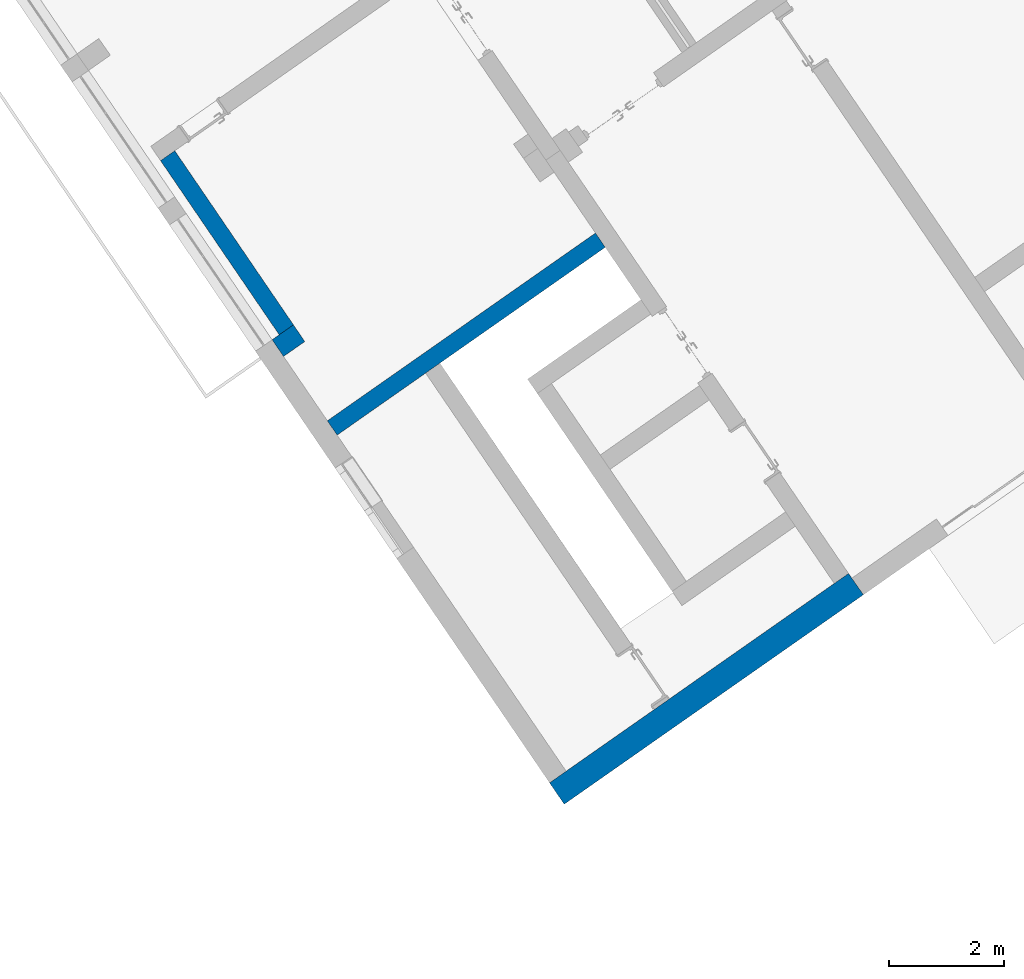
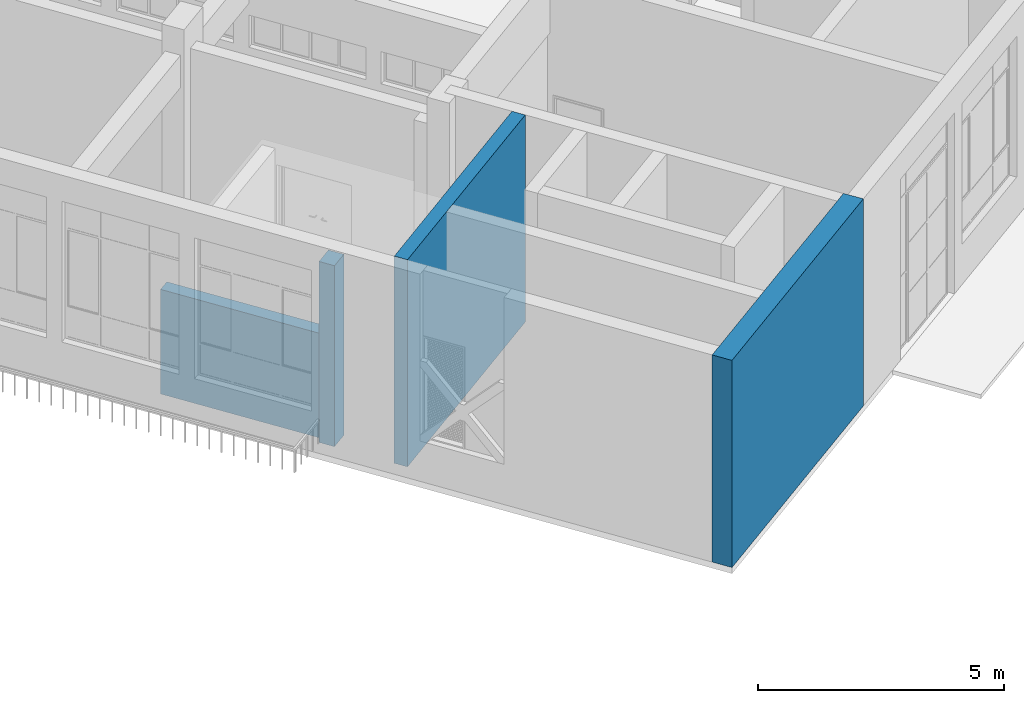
# One storey, part 58 of 157: 4 walls.
"""IFC2X3 building model written with IfcOpenShell, lengths in millimetres."""

from ifc_helpers import new_model, entity, si_unit, converted_unit, derived_unit, direction, frame, origin, place, context, subcontext, project, spatial, polyline, outline, extrude, material, layer, layer_set, layer_usage, type_object, element, save


model = new_model("IFC2X3")

# Units and contexts
model_context = context("Model", 3, precision=0.01, world=origin(), true_north=direction((6.123031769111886e-17, 1.0)))
body_context = subcontext(model_context, "Body", "Model", "MODEL_VIEW")
ifc_project = project(units=[si_unit("LENGTHUNIT", "METRE", prefix="MILLI"), si_unit("AREAUNIT", "SQUARE_METRE"), si_unit("VOLUMEUNIT", "CUBIC_METRE"), converted_unit("PLANEANGLEUNIT", "DEGREE", entity("IfcRatioMeasure", 0.017453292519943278), si_unit("PLANEANGLEUNIT", "RADIAN"), dimensions=[0, 0, 0, 0, 0, 0, 0]), si_unit("MASSUNIT", "GRAM", prefix="KILO"), derived_unit("MASSDENSITYUNIT", [(si_unit("MASSUNIT", "GRAM", prefix="KILO"), 1), (si_unit("LENGTHUNIT", "METRE"), -3)]), derived_unit("MOMENTOFINERTIAUNIT", [(si_unit("LENGTHUNIT", "METRE"), 4)]), si_unit("TIMEUNIT", "SECOND"), si_unit("FREQUENCYUNIT", "HERTZ"), si_unit("THERMODYNAMICTEMPERATUREUNIT", "DEGREE_CELSIUS"), derived_unit("THERMALTRANSMITTANCEUNIT", [(si_unit("MASSUNIT", "GRAM", prefix="KILO"), 1), (si_unit("THERMODYNAMICTEMPERATUREUNIT", "KELVIN"), -1), (si_unit("TIMEUNIT", "SECOND"), -3)]), derived_unit("THERMALCONDUCTANCEUNIT", [(si_unit("MASSUNIT", "GRAM", prefix="KILO"), 1), (si_unit("LENGTHUNIT", "METRE"), 1), (si_unit("THERMODYNAMICTEMPERATUREUNIT", "KELVIN"), -1), (si_unit("TIMEUNIT", "SECOND"), -3)]), derived_unit("VOLUMETRICFLOWRATEUNIT", [(si_unit("LENGTHUNIT", "METRE"), 3), (si_unit("TIMEUNIT", "SECOND"), -1)]), derived_unit("MASSFLOWRATEUNIT", [(si_unit("MASSUNIT", "GRAM", prefix="KILO"), 1), (si_unit("TIMEUNIT", "SECOND"), -1)]), derived_unit("ROTATIONALFREQUENCYUNIT", [(si_unit("TIMEUNIT", "SECOND"), -1)]), si_unit("ELECTRICCURRENTUNIT", "AMPERE"), si_unit("ELECTRICVOLTAGEUNIT", "VOLT"), si_unit("POWERUNIT", "WATT"), converted_unit("FORCEUNIT", "KIP", entity("IfcRatioMeasure", 2.088543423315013e-05), si_unit("FORCEUNIT", "NEWTON"), dimensions=[1, 1, -2, 0, 0, 0, 0]), si_unit("ILLUMINANCEUNIT", "LUX"), si_unit("LUMINOUSFLUXUNIT", "LUMEN"), si_unit("LUMINOUSINTENSITYUNIT", "CANDELA"), derived_unit("USERDEFINED", [(si_unit("MASSUNIT", "GRAM", prefix="KILO"), -1), (si_unit("LENGTHUNIT", "METRE"), -2), (si_unit("TIMEUNIT", "SECOND"), 3), (si_unit("LUMINOUSFLUXUNIT", "LUMEN"), 1)]), derived_unit("USERDEFINED", [(si_unit("MASSUNIT", "GRAM", prefix="KILO"), 1), (si_unit("LENGTHUNIT", "METRE"), 3), (si_unit("TIMEUNIT", "SECOND"), -3), (si_unit("ELECTRICCURRENTUNIT", "AMPERE"), -2)]), derived_unit("USERDEFINED", [(si_unit("LENGTHUNIT", "METRE"), 2), (si_unit("TIMEUNIT", "SECOND"), -2)]), derived_unit("SOUNDPOWERUNIT", [(si_unit("MASSUNIT", "GRAM", prefix="KILO"), 1), (si_unit("LENGTHUNIT", "METRE"), 2), (si_unit("TIMEUNIT", "SECOND"), -3)]), derived_unit("SOUNDPRESSUREUNIT", [(si_unit("MASSUNIT", "GRAM", prefix="KILO"), 1), (si_unit("LENGTHUNIT", "METRE"), -1), (si_unit("TIMEUNIT", "SECOND"), -2)]), derived_unit("LINEARVELOCITYUNIT", [(si_unit("LENGTHUNIT", "METRE"), 1), (si_unit("TIMEUNIT", "SECOND"), -1)]), si_unit("PRESSUREUNIT", "PASCAL"), derived_unit("USERDEFINED", [(si_unit("LENGTHUNIT", "METRE"), -2), (si_unit("MASSUNIT", "GRAM", prefix="KILO"), 1), (si_unit("TIMEUNIT", "SECOND"), -2)]), derived_unit("LINEARFORCEUNIT", [(si_unit("MASSUNIT", "GRAM", prefix="KILO"), 1), (si_unit("LENGTHUNIT", "METRE"), 1), (si_unit("TIMEUNIT", "SECOND"), -2), (si_unit("LENGTHUNIT", "METRE"), -1)]), derived_unit("PLANARFORCEUNIT", [(si_unit("MASSUNIT", "GRAM", prefix="KILO"), 1), (si_unit("LENGTHUNIT", "METRE"), 1), (si_unit("TIMEUNIT", "SECOND"), -2), (si_unit("LENGTHUNIT", "METRE"), -2)]), derived_unit("SPECIFICHEATCAPACITYUNIT", [(si_unit("LENGTHUNIT", "METRE"), 2), (si_unit("TIMEUNIT", "SECOND"), -2), (si_unit("THERMODYNAMICTEMPERATUREUNIT", "KELVIN"), -1)]), derived_unit("VAPORPERMEABILITYUNIT", [(si_unit("TIMEUNIT", "SECOND"), 1), (si_unit("LENGTHUNIT", "METRE"), -1)]), derived_unit("DYNAMICVISCOSITYUNIT", [(si_unit("MASSUNIT", "GRAM", prefix="KILO"), 1), (si_unit("LENGTHUNIT", "METRE"), -1), (si_unit("TIMEUNIT", "SECOND"), -1)]), derived_unit("THERMALEXPANSIONCOEFFICIENTUNIT", [(si_unit("THERMODYNAMICTEMPERATUREUNIT", "KELVIN"), -1)])], contexts=[model_context])

# Site, building, storey
site_placement = place(None, frame((0.0, 0.0, 0.0), z_axis=(0.0, 0.0, 1.0), x_axis=(0.8191520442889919, 0.5735764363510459, 0.0)))
site = spatial("IfcSite", under=ifc_project, at=site_placement, Name="Default", CompositionType="ELEMENT")
building_placement = place(site_placement, origin())
building = spatial("IfcBuilding", under=site, at=building_placement, CompositionType="ELEMENT")
storey_placement = place(building_placement, origin())
storey = spatial("IfcBuildingStorey", under=building, at=storey_placement, Name="1.EG +0.00", CompositionType="ELEMENT", Elevation=-4.331468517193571e-12)

# Walls
ifc_material = material(Name="Analytical Wall Surface_CJC")
ifc_layer_1 = layer(ifc_material, 450.00000000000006)
ifc_layer_set_1 = layer_set([ifc_layer_1], Name="Basic Wall:Wand_Aussen_45")
ifc_layer_usage_1 = layer_usage(ifc_layer_set_1, "AXIS2", "NEGATIVE", 225.00000000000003)
wall_type_1 = type_object("IfcWallType", Name="Basic Wall:Wand_Aussen_45", PredefinedType="STANDARD", material=ifc_layer_set_1)
wall_1_placement = place(storey_placement, frame((-217575.7594548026, 52296.35891435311, 0.0), z_axis=(0.0, 0.0, 1.0), x_axis=(-1.0, 0.0, 0.0)))
element("IfcWallStandardCase", 1, at=wall_1_placement, inside=storey, type_object=wall_type_1, material=ifc_layer_usage_1, Name="Basic Wall:Wand_Aussen_45", ObjectType="Basic Wall:Wand_Aussen_45", context=body_context, shape_type="SweptSolid", body=[
    extrude(outline(polyline([(6326.785583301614, -225.0), (6332.514361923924, 225.0), (0.0, 225.0), (0.0, -125.0), (0.0, -225.0), (1.2715232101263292, -225.0), (301.2958584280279, -225.0), (3807.5911600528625, -225.0), (4107.618827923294, -225.0), (5976.757222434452, -225.0), (6326.785583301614, -225.0)])), origin(), (0.0, 0.0, 1.0), 5150.000000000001),
])
ifc_layer_2 = layer(ifc_material, 300.0)
ifc_layer_set_2 = layer_set([ifc_layer_2], Name="Basic Wall:Wand_Innen_30")
ifc_layer_usage_2 = layer_usage(ifc_layer_set_2, "AXIS2", "NEGATIVE", 150.0)
wall_type_2 = type_object("IfcWallType", Name="Basic Wall:Wand_Innen_30", PredefinedType="STANDARD", material=ifc_layer_set_2)
wall_2_placement = place(storey_placement, frame((-223462.76581215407, 59721.358914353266, 0.0)))
element("IfcWallStandardCase", 2, at=wall_2_placement, inside=storey, type_object=wall_type_2, material=ifc_layer_usage_2, Name="Basic Wall:Wand_Innen_30", ObjectType="Basic Wall:Wand_Innen_30", context=body_context, shape_type="SweptSolid", body=[
    extrude(outline(polyline([(5675.509170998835, -150.0), (5679.3303910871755, 150.0), (3.81918574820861, 150.0), (0.0, -150.0), (1875.1380992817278, -150.0), (2175.165767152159, -150.0), (5675.509170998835, -150.0)])), origin(), (0.0, 0.0, 1.0), 5150.000000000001),
])
wall_3_placement = place(storey_placement, frame((-223136.79400718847, 61569.448459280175, 0.0), z_axis=(0.0, 0.0, 1.0), x_axis=(0.012736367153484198, 0.9999188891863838, 0.0)))
element("IfcWallStandardCase", 3, at=wall_3_placement, inside=storey, type_object=wall_type_2, material=ifc_layer_usage_2, Name="Basic Wall:Wand_Innen_30", ObjectType="Basic Wall:Wand_Innen_30", context=body_context, shape_type="SweptSolid", body=[
    extrude(outline(polyline([(3656.925347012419, -150.0), (3653.1041269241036, 150.0), (0.0, 150.0), (3.8212200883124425, -150.0), (3656.925347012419, -150.0)])), origin(), (0.0, 0.0, 1.0), 2600.0),
])
ifc_layer_3 = layer(ifc_material, 350.0)
ifc_layer_set_3 = layer_set([ifc_layer_3], Name="Basic Wall:Wand_Innen_35")
ifc_layer_usage_3 = layer_usage(ifc_layer_set_3, "AXIS2", "NEGATIVE", 175.0)
wall_type_3 = type_object("IfcWallType", Name="Basic Wall:Wand_Innen_35", PredefinedType="STANDARD", material=ifc_layer_set_3)
wall_4_placement = place(storey_placement, frame((-222986.75750534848, 61396.3589143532, 0.0), z_axis=(0.0, 0.0, 1.0), x_axis=(-1.0, 0.0, 0.0)))
element("IfcWallStandardCase", 4, at=wall_4_placement, inside=storey, type_object=wall_type_3, material=ifc_layer_usage_3, Name="Basic Wall:Wand_Innen_35", ObjectType="Basic Wall:Wand_Innen_35", context=body_context, shape_type="SweptSolid", body=[
    extrude(outline(polyline([(450.5470684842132, -175.0), (455.0027851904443, 175.0), (4.458090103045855, 175.0), (0.0, -175.0), (300.02433521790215, -175.0), (450.5470684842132, -175.0)])), origin(), (0.0, 0.0, 1.0), 4500.0),
])

save(model, "model.ifc")
